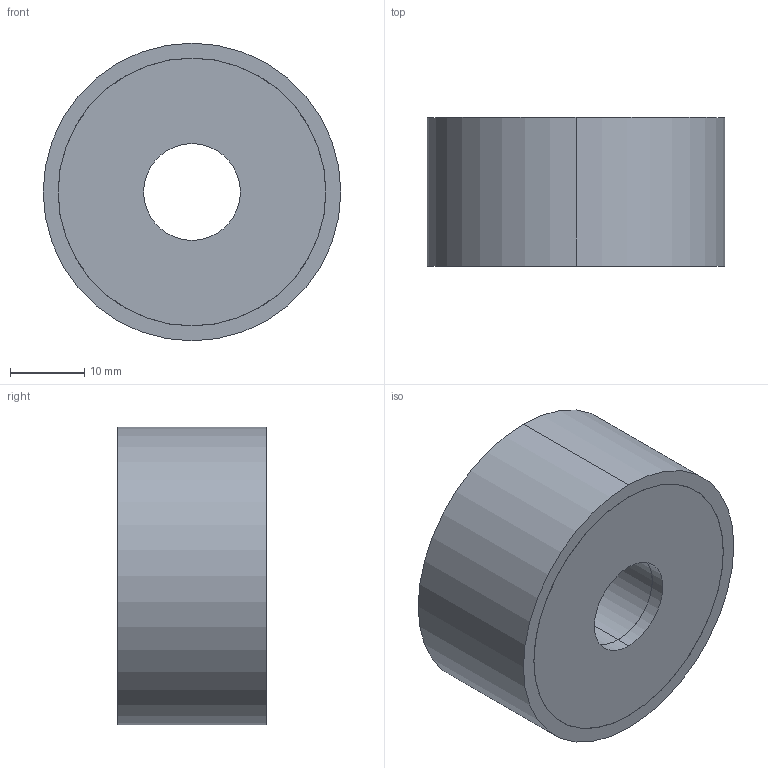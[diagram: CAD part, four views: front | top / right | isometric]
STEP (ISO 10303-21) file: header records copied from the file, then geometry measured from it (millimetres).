
FILE_DESCRIPTION (( 'STEP AP214' ), '1' );
FILE_NAME ('351-40-20-13-DD-70.step', '2025-07-23T10:11:01', ( '' ), ( '' ), 'SwSTEP 2.0', 'SolidWorks 2022', '' );
FILE_SCHEMA (( 'AUTOMOTIVE_DESIGN' ));
Length unit declared in the file: millimetre
Products named in the file (1): 351-40-20-13-DD-70
Bounding box: 40 x 20 x 40 mm (x, y, z)
Volume: 22478.1 mm3; surface area: 5584.1 mm2
Topology: 1 solids, 1 shells, 30 faces, 60 edges, 40 vertices
Faces by surface type: cylinder 20, plane 10
Entity records: 919 total; most frequent: DIRECTION 162, CARTESIAN_POINT 131, ORIENTED_EDGE 120, AXIS2_PLACEMENT_3D 71, EDGE_CURVE 60, CIRCLE 40, EDGE_LOOP 40, VERTEX_POINT 40
